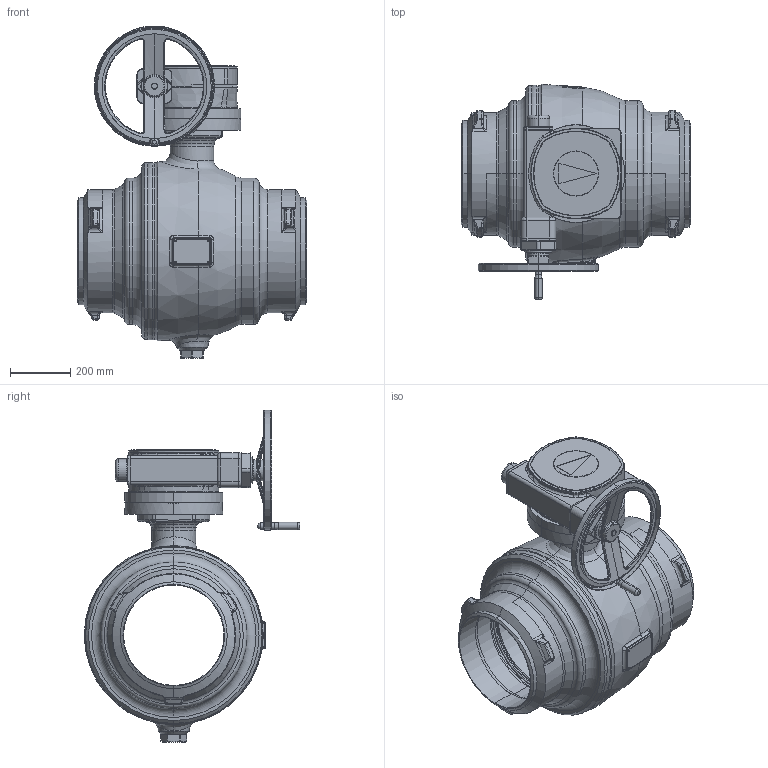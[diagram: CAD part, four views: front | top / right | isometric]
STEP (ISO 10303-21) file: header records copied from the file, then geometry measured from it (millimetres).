
FILE_DESCRIPTION((''),'2;1');
FILE_NAME('ASM0014_ASM','2016-04-29T',('schwaba'),('RAND'),'PRO/ENGINEER BY PARAMETRIC TECHNOLOGY CORPORATION, 2013410','PRO/ENGINEER BY PARAMETRIC TECHNOLOGY CORPORATION, 2013410','');
FILE_SCHEMA(('CONFIG_CONTROL_DESIGN'));
Products named in the file (7): KHISL350VSL350P040MKK_SW0001; PRT0015; PRT0016; PRT0017; ASM0004_ASM_1_ASM; GS125_350-400_ASM; ASM0014_ASM
Assembly tree (6 placements, depth 4):
  ASM0014_ASM
    KHISL350VSL350P040MKK_SW0001
    GS125_350-400_ASM
      ASM0004_ASM_1_ASM
        PRT0015
        PRT0016
        PRT0017
Bounding box: 762 x 716.75 x 1104 mm (x, y, z)
Volume: 68708512.8 mm3; surface area: 5987066.6 mm2
Topology: 4 solids, 12 shells, 2309 faces, 5815 edges, 3611 vertices
Faces by surface type: plane 1082, cylinder 498, torus 259, cone 226, bspline 194, sphere 50
Entity records: 131372 total; most frequent: CARTESIAN_POINT 78434, ORIENTED_EDGE 11554, DIRECTION 10462, EDGE_CURVE 5777, AXIS2_PLACEMENT_3D 4313, VERTEX_POINT 3611, EDGE_LOOP 2506, FACE_OUTER_BOUND 2309
